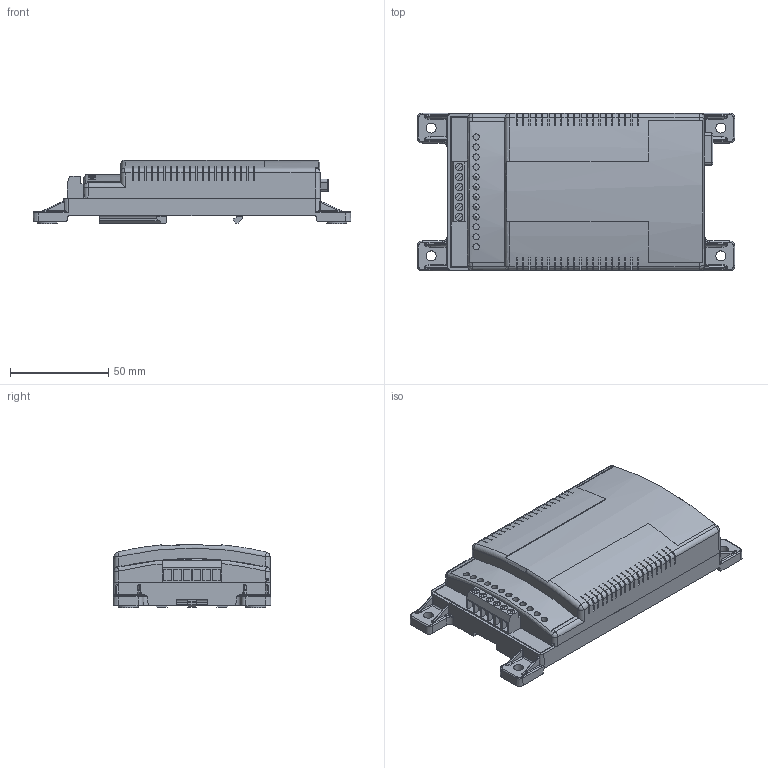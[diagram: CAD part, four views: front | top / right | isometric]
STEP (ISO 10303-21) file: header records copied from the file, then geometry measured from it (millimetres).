
FILE_DESCRIPTION(/* description */ ('Unknown'),/* implementation_level */ '2;1');
FILE_NAME(/* name */ 'Relaydriver',/* time_stamp */ '2017-01-20T14:04:22-05:00',/* author */ ('Unknown'),/* organization */ ('Unknown'),/* preprocessor_version */ 'ST-DEVELOPER v16.7',/* originating_system */ 'DEX',/* authorisation */ $);
FILE_SCHEMA (('AUTOMOTIVE_DESIGN {1 0 10303 214 3 1 1}'));
Length unit declared in the file: millimetre
Products named in the file (4): Alarm-2; Alarm-base_pub; Alarm-board_pub; Module-cover3_pub
Assembly tree (3 placements, depth 2):
  Alarm-2
    Alarm-base_pub
    Alarm-board_pub
    Module-cover3_pub
Bounding box: 161.54 x 80.26 x 32.11 mm (x, y, z)
Volume: 264714.1 mm3; surface area: 89080.8 mm2
Topology: 3 solids, 4 shells, 839 faces, 2229 edges, 1417 vertices
Faces by surface type: plane 492, cylinder 216, bspline 90, cone 21, torus 19, sphere 1
Full cylindrical faces by diameter (mm): 1.27 x9, 3.175 x17, 3.81 x6, 3.988 x2, 5.08 x4, 10.16 x4
Entity records: 29343 total; most frequent: CARTESIAN_POINT 9021, ORIENTED_EDGE 4208, DIRECTION 4105, EDGE_CURVE 2104, AXIS2_PLACEMENT_3D 1374, VERTEX_POINT 1370, LINE 1357, VECTOR 1357
